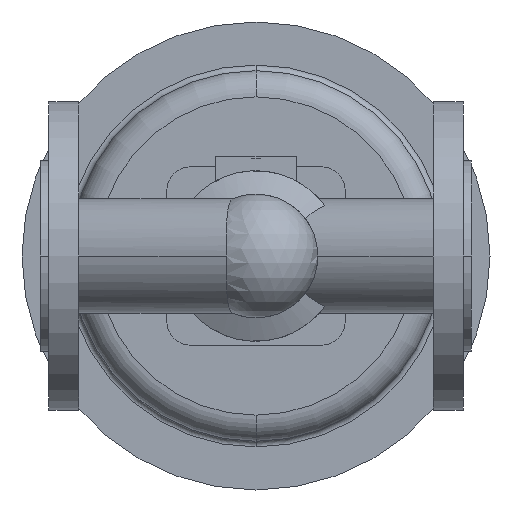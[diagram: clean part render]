
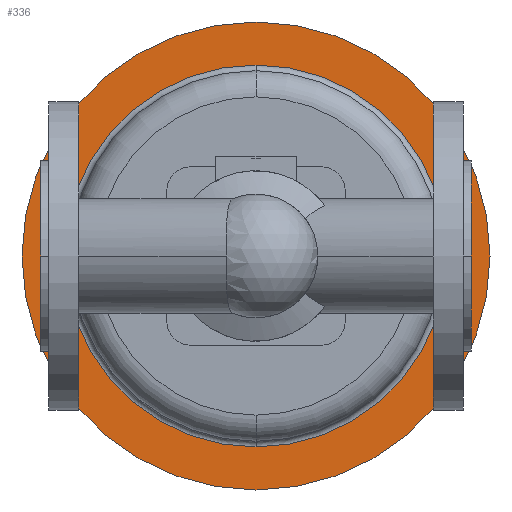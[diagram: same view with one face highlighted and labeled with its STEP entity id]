
A CAD part, front view. The second image highlights one B-rep face of the part: STEP entity #336.
In plain terms, the highlighted planar face has unit normal (0, -1, 0).
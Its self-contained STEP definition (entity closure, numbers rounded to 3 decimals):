
#336 = ADVANCED_FACE( '', ( #816, #817 ), #818, .T. );
#816 = FACE_OUTER_BOUND( '', #1305, .T. );
#817 = FACE_BOUND( '', #1306, .T. );
#818 = PLANE( '', #1307 );
#1305 = EDGE_LOOP( '', ( #3035, #3036 ) );
#1306 = EDGE_LOOP( '', ( #3037, #3038, #3039 ) );
#1307 = AXIS2_PLACEMENT_3D( '', #3040, #3041, #3042 );
#3035 = ORIENTED_EDGE( '', *, *, #3469, .F. );
#3036 = ORIENTED_EDGE( '', *, *, #3640, .F. );
#3037 = ORIENTED_EDGE( '', *, *, #3638, .T. );
#3038 = ORIENTED_EDGE( '', *, *, #3476, .T. );
#3039 = ORIENTED_EDGE( '', *, *, #3639, .T. );
#3040 = CARTESIAN_POINT( '', ( 228.5, 561., 0. ) );
#3041 = DIRECTION( '', ( 0., -1., 0. ) );
#3042 = DIRECTION( '', ( -1., 0., 0. ) );
#3469 = EDGE_CURVE( '', #4277, #4280, #4281, .T. );
#3476 = EDGE_CURVE( '', #4286, #4292, #4294, .T. );
#3638 = EDGE_CURVE( '', #4563, #4286, #4564, .T. );
#3639 = EDGE_CURVE( '', #4292, #4563, #4565, .T. );
#3640 = EDGE_CURVE( '', #4280, #4277, #4566, .T. );
#4277 = VERTEX_POINT( '', #5883 );
#4280 = VERTEX_POINT( '', #5887 );
#4281 = CIRCLE( '', #5888, 125. );
#4286 = VERTEX_POINT( '', #5894 );
#4292 = VERTEX_POINT( '', #5900 );
#4294 = CIRCLE( '', #5902, 102. );
#4563 = VERTEX_POINT( '', #6240 );
#4564 = CIRCLE( '', #6241, 102. );
#4565 = CIRCLE( '', #6242, 102. );
#4566 = CIRCLE( '', #6243, 125. );
#5883 = CARTESIAN_POINT( '', ( 240., 561., 0. ) );
#5887 = CARTESIAN_POINT( '', ( -10., 561., 0. ) );
#5888 = AXIS2_PLACEMENT_3D( '', #6956, #6957, #6958 );
#5894 = CARTESIAN_POINT( '', ( 115., 561., -102. ) );
#5900 = CARTESIAN_POINT( '', ( 115., 561., 102. ) );
#5902 = AXIS2_PLACEMENT_3D( '', #6975, #6976, #6977 );
#6240 = CARTESIAN_POINT( '', ( 217., 561., 0. ) );
#6241 = AXIS2_PLACEMENT_3D( '', #7323, #7324, #7325 );
#6242 = AXIS2_PLACEMENT_3D( '', #7326, #7327, #7328 );
#6243 = AXIS2_PLACEMENT_3D( '', #7329, #7330, #7331 );
#6956 = CARTESIAN_POINT( '', ( 115., 561., 0. ) );
#6957 = DIRECTION( '', ( 0., 1., 0. ) );
#6958 = DIRECTION( '', ( 1., 0., 0. ) );
#6975 = CARTESIAN_POINT( '', ( 115., 561., 0. ) );
#6976 = DIRECTION( '', ( 0., 1., 0. ) );
#6977 = DIRECTION( '', ( 1., 0., 0. ) );
#7323 = CARTESIAN_POINT( '', ( 115., 561., 0. ) );
#7324 = DIRECTION( '', ( 0., 1., 0. ) );
#7325 = DIRECTION( '', ( 1., 0., 0. ) );
#7326 = CARTESIAN_POINT( '', ( 115., 561., 0. ) );
#7327 = DIRECTION( '', ( 0., 1., 0. ) );
#7328 = DIRECTION( '', ( 1., 0., 0. ) );
#7329 = CARTESIAN_POINT( '', ( 115., 561., 0. ) );
#7330 = DIRECTION( '', ( 0., 1., 0. ) );
#7331 = DIRECTION( '', ( 1., 0., 0. ) );
